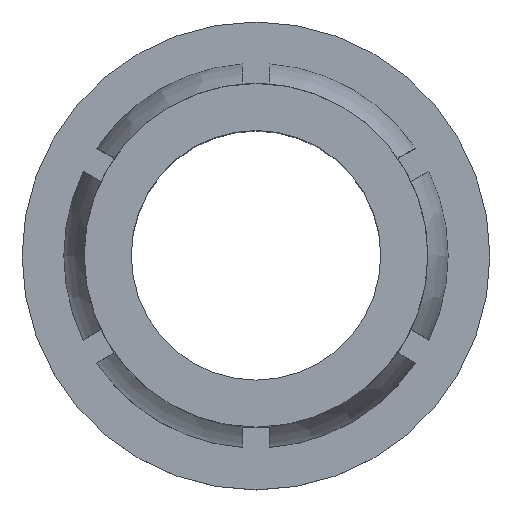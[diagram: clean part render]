
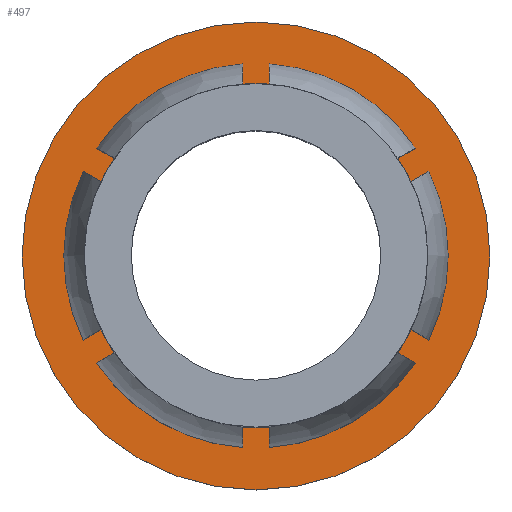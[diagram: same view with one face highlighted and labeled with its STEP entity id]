
A CAD part, top view. The second image highlights one B-rep face of the part: STEP entity #497.
In plain terms, the highlighted planar face has unit normal (0, 0, 1).
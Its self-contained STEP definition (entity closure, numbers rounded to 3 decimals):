
#35 = EDGE_LOOP ( 'NONE', ( #1207 ) ) ;
#89 = VERTEX_POINT ( 'NONE', #1332 ) ;
#230 = FACE_BOUND ( 'NONE', #35, .T. ) ;
#289 = DIRECTION ( 'NONE',  ( 0., 0., -1. ) ) ;
#411 = EDGE_CURVE ( 'NONE', #864, #864, #963, .T. ) ;
#451 = DIRECTION ( 'NONE',  ( 0., 0., -1. ) ) ;
#497 = ADVANCED_FACE ( 'NONE', ( #595, #230 ), #893, .F. ) ;
#583 = EDGE_LOOP ( 'NONE', ( #1495 ) ) ;
#595 = FACE_OUTER_BOUND ( 'NONE', #583, .T. ) ;
#644 = DIRECTION ( 'NONE',  ( 0., 0., -1. ) ) ;
#766 = CARTESIAN_POINT ( 'NONE',  ( 14.852, 0., -21.88 ) ) ;
#818 = AXIS2_PLACEMENT_3D ( 'NONE', #1146, #289, #1020 ) ;
#864 = VERTEX_POINT ( 'NONE', #1413 ) ;
#893 = PLANE ( 'NONE',  #1483 ) ;
#963 = CIRCLE ( 'NONE', #818, 8.763 ) ;
#993 = EDGE_CURVE ( 'NONE', #89, #89, #1371, .T. ) ;
#1020 = DIRECTION ( 'NONE',  ( -1., 0., 0. ) ) ;
#1024 = AXIS2_PLACEMENT_3D ( 'NONE', #1185, #451, #1056 ) ;
#1056 = DIRECTION ( 'NONE',  ( -1., 0., 0. ) ) ;
#1146 = CARTESIAN_POINT ( 'NONE',  ( 4.267, 0., -21.88 ) ) ;
#1185 = CARTESIAN_POINT ( 'NONE',  ( 4.267, 0., -21.88 ) ) ;
#1207 = ORIENTED_EDGE ( 'NONE', *, *, #993, .T. ) ;
#1332 = CARTESIAN_POINT ( 'NONE',  ( -2.168, 0., -21.88 ) ) ;
#1371 = CIRCLE ( 'NONE', #1024, 6.435 ) ;
#1380 = DIRECTION ( 'NONE',  ( -1., 0., 0. ) ) ;
#1413 = CARTESIAN_POINT ( 'NONE',  ( -4.496, 0., -21.88 ) ) ;
#1483 = AXIS2_PLACEMENT_3D ( 'NONE', #766, #644, #1380 ) ;
#1495 = ORIENTED_EDGE ( 'NONE', *, *, #411, .F. ) ;
